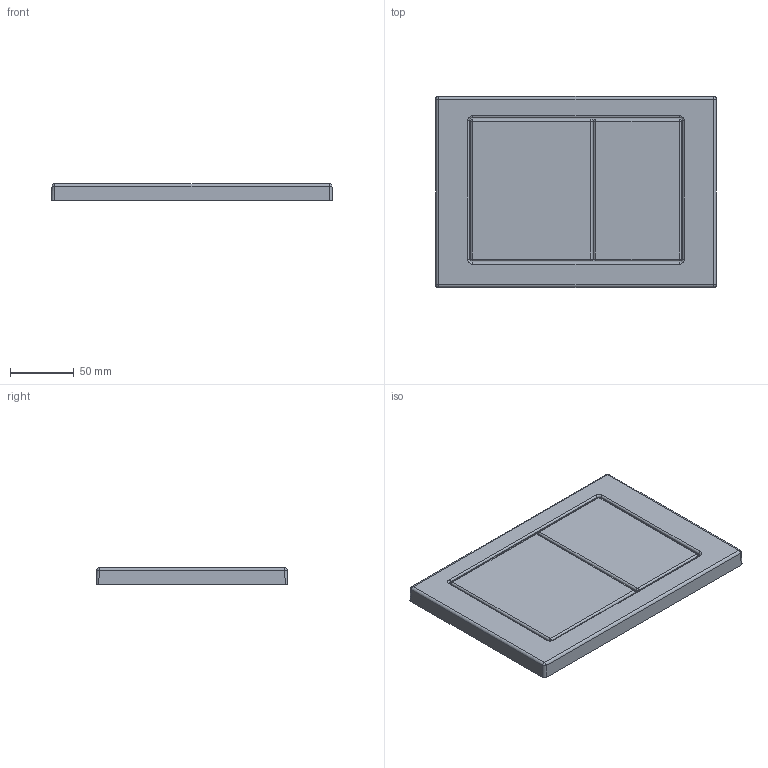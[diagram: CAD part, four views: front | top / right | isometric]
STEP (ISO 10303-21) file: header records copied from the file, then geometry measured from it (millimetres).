
FILE_DESCRIPTION (( 'STEP AP214' ), '1' );
FILE_NAME ('SPP P£YTKA PRZYCISKÓW M05.STEP', '2023-03-22T10:07:42', ( '' ), ( '' ), 'SwSTEP 2.0', 'SolidWorks 2022', '' );
FILE_SCHEMA (( 'AUTOMOTIVE_DESIGN' ));
Length unit declared in the file: millimetre
Products named in the file (1): SPP PŁYTKA PRZYCISKÓW M05
Bounding box: 220 x 150 x 13 mm (x, y, z)
Volume: 417351.7 mm3; surface area: 76804.5 mm2
Topology: 1 solids, 1 shells, 69 faces, 152 edges, 88 vertices
Faces by surface type: cylinder 32, plane 21, sphere 12, torus 4
Entity records: 2668 total; most frequent: CARTESIAN_POINT 374, DIRECTION 332, ORIENTED_EDGE 304, EDGE_CURVE 152, AXIS2_PLACEMENT_3D 126, VERTEX_POINT 88, LINE 80, VECTOR 80
